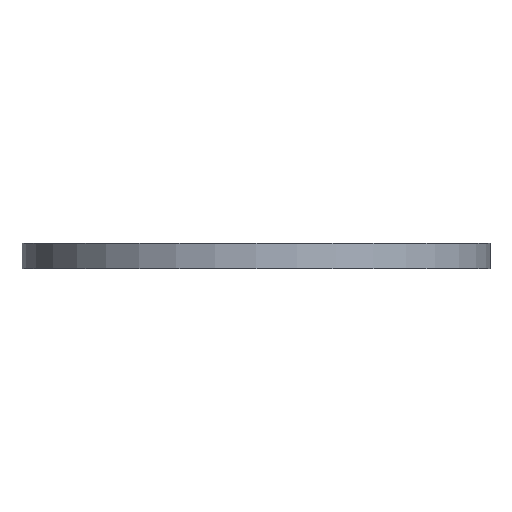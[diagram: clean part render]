
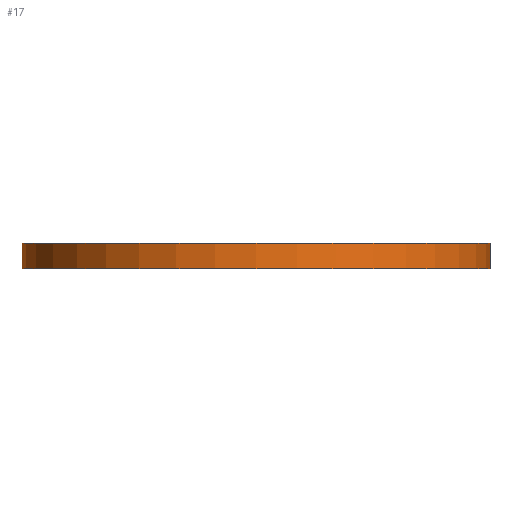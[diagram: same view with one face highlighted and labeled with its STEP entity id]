
A CAD part, front view. The second image highlights one B-rep face of the part: STEP entity #17.
In plain terms, the highlighted cylindrical face has radius 14 mm (diameter 28 mm), a full revolution.
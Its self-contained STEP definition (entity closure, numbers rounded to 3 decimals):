
#17 = ADVANCED_FACE('',(#18),#31,.T.);
#18 = FACE_BOUND('',#19,.T.);
#19 = EDGE_LOOP('',(#20,#54,#77,#104));
#20 = ORIENTED_EDGE('',*,*,#21,.F.);
#21 = EDGE_CURVE('',#22,#22,#24,.T.);
#22 = VERTEX_POINT('',#23);
#23 = CARTESIAN_POINT('',(14.,0.,2.1));
#24 = SURFACE_CURVE('',#25,(#30,#42),.PCURVE_S1.);
#25 = CIRCLE('',#26,14.);
#26 = AXIS2_PLACEMENT_3D('',#27,#28,#29);
#27 = CARTESIAN_POINT('',(0.,0.,2.1));
#28 = DIRECTION('',(0.,0.,1.));
#29 = DIRECTION('',(1.,0.,-0.));
#30 = PCURVE('',#31,#36);
#31 = CYLINDRICAL_SURFACE('',#32,14.);
#32 = AXIS2_PLACEMENT_3D('',#33,#34,#35);
#33 = CARTESIAN_POINT('',(0.,0.,0.6));
#34 = DIRECTION('',(0.,0.,1.));
#35 = DIRECTION('',(1.,0.,-0.));
#36 = DEFINITIONAL_REPRESENTATION('',(#37),#41);
#37 = LINE('',#38,#39);
#38 = CARTESIAN_POINT('',(0.,1.5));
#39 = VECTOR('',#40,1.);
#40 = DIRECTION('',(1.,0.));
#41 = ( GEOMETRIC_REPRESENTATION_CONTEXT(2) 
PARAMETRIC_REPRESENTATION_CONTEXT() REPRESENTATION_CONTEXT('2D SPACE',''
  ) );
#42 = PCURVE('',#43,#48);
#43 = PLANE('',#44);
#44 = AXIS2_PLACEMENT_3D('',#45,#46,#47);
#45 = CARTESIAN_POINT('',(0.,0.,2.1));
#46 = DIRECTION('',(0.,0.,1.));
#47 = DIRECTION('',(1.,0.,-0.));
#48 = DEFINITIONAL_REPRESENTATION('',(#49),#53);
#49 = CIRCLE('',#50,14.);
#50 = AXIS2_PLACEMENT_2D('',#51,#52);
#51 = CARTESIAN_POINT('',(0.,0.));
#52 = DIRECTION('',(1.,0.));
#53 = ( GEOMETRIC_REPRESENTATION_CONTEXT(2) 
PARAMETRIC_REPRESENTATION_CONTEXT() REPRESENTATION_CONTEXT('2D SPACE',''
  ) );
#54 = ORIENTED_EDGE('',*,*,#55,.F.);
#55 = EDGE_CURVE('',#56,#22,#58,.T.);
#56 = VERTEX_POINT('',#57);
#57 = CARTESIAN_POINT('',(14.,0.,0.6));
#58 = SEAM_CURVE('',#59,(#63,#70),.PCURVE_S1.);
#59 = LINE('',#60,#61);
#60 = CARTESIAN_POINT('',(14.,0.,0.6));
#61 = VECTOR('',#62,1.);
#62 = DIRECTION('',(0.,0.,1.));
#63 = PCURVE('',#31,#64);
#64 = DEFINITIONAL_REPRESENTATION('',(#65),#69);
#65 = LINE('',#66,#67);
#66 = CARTESIAN_POINT('',(6.283,-0.));
#67 = VECTOR('',#68,1.);
#68 = DIRECTION('',(0.,1.));
#69 = ( GEOMETRIC_REPRESENTATION_CONTEXT(2) 
PARAMETRIC_REPRESENTATION_CONTEXT() REPRESENTATION_CONTEXT('2D SPACE',''
  ) );
#70 = PCURVE('',#31,#71);
#71 = DEFINITIONAL_REPRESENTATION('',(#72),#76);
#72 = LINE('',#73,#74);
#73 = CARTESIAN_POINT('',(0.,-0.));
#74 = VECTOR('',#75,1.);
#75 = DIRECTION('',(0.,1.));
#76 = ( GEOMETRIC_REPRESENTATION_CONTEXT(2) 
PARAMETRIC_REPRESENTATION_CONTEXT() REPRESENTATION_CONTEXT('2D SPACE',''
  ) );
#77 = ORIENTED_EDGE('',*,*,#78,.T.);
#78 = EDGE_CURVE('',#56,#56,#79,.T.);
#79 = SURFACE_CURVE('',#80,(#85,#92),.PCURVE_S1.);
#80 = CIRCLE('',#81,14.);
#81 = AXIS2_PLACEMENT_3D('',#82,#83,#84);
#82 = CARTESIAN_POINT('',(0.,0.,0.6));
#83 = DIRECTION('',(0.,0.,1.));
#84 = DIRECTION('',(1.,0.,-0.));
#85 = PCURVE('',#31,#86);
#86 = DEFINITIONAL_REPRESENTATION('',(#87),#91);
#87 = LINE('',#88,#89);
#88 = CARTESIAN_POINT('',(0.,0.));
#89 = VECTOR('',#90,1.);
#90 = DIRECTION('',(1.,0.));
#91 = ( GEOMETRIC_REPRESENTATION_CONTEXT(2) 
PARAMETRIC_REPRESENTATION_CONTEXT() REPRESENTATION_CONTEXT('2D SPACE',''
  ) );
#92 = PCURVE('',#93,#98);
#93 = PLANE('',#94);
#94 = AXIS2_PLACEMENT_3D('',#95,#96,#97);
#95 = CARTESIAN_POINT('',(0.,0.,0.6));
#96 = DIRECTION('',(0.,0.,1.));
#97 = DIRECTION('',(1.,0.,-0.));
#98 = DEFINITIONAL_REPRESENTATION('',(#99),#103);
#99 = CIRCLE('',#100,14.);
#100 = AXIS2_PLACEMENT_2D('',#101,#102);
#101 = CARTESIAN_POINT('',(0.,0.));
#102 = DIRECTION('',(1.,0.));
#103 = ( GEOMETRIC_REPRESENTATION_CONTEXT(2) 
PARAMETRIC_REPRESENTATION_CONTEXT() REPRESENTATION_CONTEXT('2D SPACE',''
  ) );
#104 = ORIENTED_EDGE('',*,*,#55,.T.);
